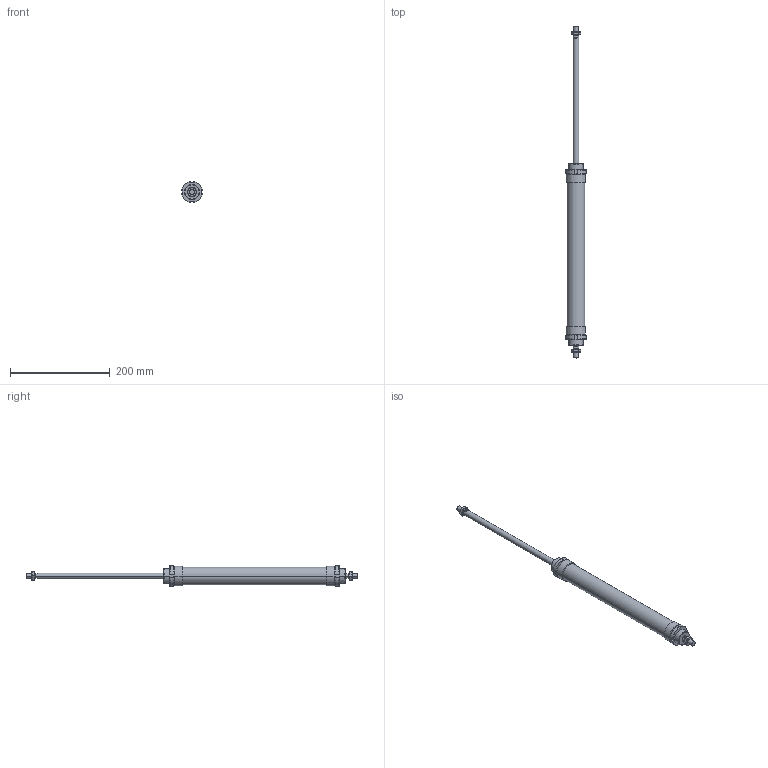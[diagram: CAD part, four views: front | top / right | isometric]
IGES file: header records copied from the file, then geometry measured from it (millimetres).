
Global section: file name: No Iges File Name specified; native system: AutoDesk Inventor R6.0; preprocessor: AutoDesk Inventor Iges Exporter R6.0; author: No Author specified; organization: No Organization specified; date: 20030403.072702; units: millimetre
Bounding box: 41.7 x 665 x 41.7 mm (x, y, z)
Volume: 407341.9 mm3; surface area: 90497.9 mm2
Topology: 6 solids, 6 shells, 182 faces, 424 edges, 264 vertices
Faces by surface type: plane 66, cone 52, bspline 30, cylinder 28, revolution 6
